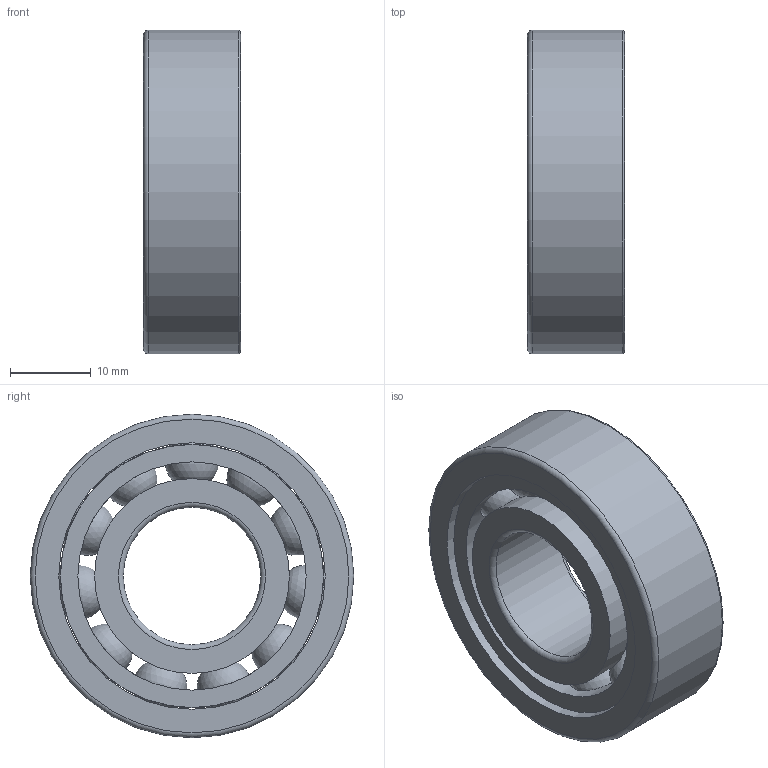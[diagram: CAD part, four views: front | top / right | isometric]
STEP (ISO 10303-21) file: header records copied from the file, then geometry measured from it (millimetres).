
FILE_DESCRIPTION(/* description */ (''),/* implementation_level */ '2;1');
FILE_NAME(/* name */ 'S_6203_TA.step',/* time_stamp */ '2013-03-06T14:48:59+01:00',/* author */ ('Marian'),/* organization */ ('GMN'),/* preprocessor_version */ 'ST-DEVELOPER v11',/* originating_system */ 'SIEMENS UGS NX 6.0',/* authorisation */ '');
FILE_SCHEMA (('CONFIG_CONTROL_DESIGN'));
Length unit declared in the file: millimetre
Products named in the file (1): S_6203_TA
Bounding box: 12 x 40 x 40 mm (x, y, z)
Volume: 9274.5 mm3; surface area: 9063 mm2
Topology: 14 solids, 14 shells, 42 faces, 100 edges, 64 vertices
Faces by surface type: cylinder 18, sphere 11, torus 6, plane 6, cone 1
Full cylindrical faces by diameter (mm): 6.947 x11, 17 x1, 24.1 x2, 28.227 x1, 32.55 x1, 32.95 x1, 40 x1
Entity records: 2192 total; most frequent: CARTESIAN_POINT 1392, DIRECTION 126, FACE_BOUND 95, EDGE_LOOP 84, ORIENTED_EDGE 84, AXIS2_PLACEMENT_3D 63, VERTEX_POINT 53, EDGE_CURVE 42
